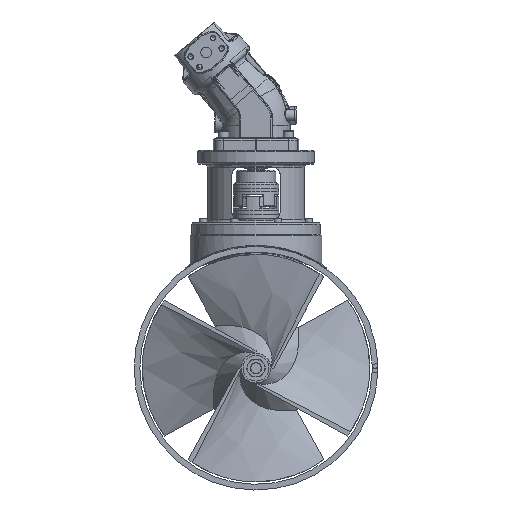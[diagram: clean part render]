
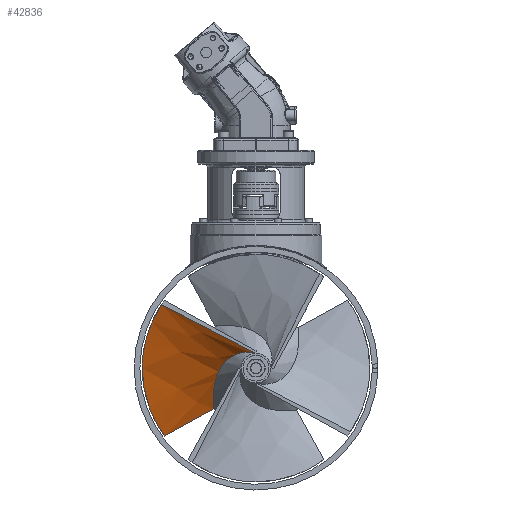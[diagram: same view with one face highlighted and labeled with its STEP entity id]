
A CAD part, left-side view. The second image highlights one B-rep face of the part: STEP entity #42836.
In plain terms, the highlighted free-form (B-spline) face has degree [3, 3] with [4, 4] control points.
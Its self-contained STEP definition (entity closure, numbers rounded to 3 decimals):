
#424=B_SPLINE_SURFACE_WITH_KNOTS('',3,3,((#104811,#104812,#104813,#104814),
(#104815,#104816,#104817,#104818),(#104819,#104820,#104821,#104822),(#104823,
#104824,#104825,#104826)),.UNSPECIFIED.,.F.,.F.,.F.,(4,4),(4,4),(0.,1.),
(0.,1.),.UNSPECIFIED.);
#7261=FACE_OUTER_BOUND('',#9927,.T.);
#9927=EDGE_LOOP('',(#35920,#35921,#35922,#35923,#35924,#35925));
#11935=LINE('',#104807,#13872);
#11938=LINE('',#104828,#13875);
#11939=LINE('',#104844,#13876);
#13872=VECTOR('',#58610,223.983);
#13875=VECTOR('',#58613,227.318);
#13876=VECTOR('',#58614,10.);
#14977=B_SPLINE_CURVE_WITH_KNOTS('',3,(#104789,#104790,#104791,#104792,
#104793,#104794,#104795,#104796),.UNSPECIFIED.,.F.,.F.,(4,2,2,4),(-13.762,
-12.685,-4.358,0.),.UNSPECIFIED.);
#14978=B_SPLINE_CURVE_WITH_KNOTS('',3,(#104798,#104799,#104800,#104801,
#104802,#104803),.UNSPECIFIED.,.F.,.F.,(4,2,4),(-26.505,-19.534,
-13.762),.UNSPECIFIED.);
#14979=B_SPLINE_CURVE_WITH_KNOTS('',3,(#104830,#104831,#104832,#104833,
#104834,#104835,#104836,#104837,#104838,#104839,#104840,#104841,#104842,
#104843),.UNSPECIFIED.,.F.,.F.,(4,2,2,2,2,2,4),(-10.784,-8.994,
-7.14,-5.039,-3.047,-1.297,
0.),.UNSPECIFIED.);
#18581=VERTEX_POINT('',#104786);
#18582=VERTEX_POINT('',#104788);
#18583=VERTEX_POINT('',#104797);
#18584=VERTEX_POINT('',#104806);
#18586=VERTEX_POINT('',#104827);
#18587=VERTEX_POINT('',#104829);
#24480=EDGE_CURVE('',#18582,#18581,#14977,.T.);
#24481=EDGE_CURVE('',#18583,#18582,#14978,.T.);
#24483=EDGE_CURVE('',#18584,#18583,#11935,.T.);
#24486=EDGE_CURVE('',#18586,#18581,#11938,.T.);
#24487=EDGE_CURVE('',#18586,#18587,#14979,.T.);
#24488=EDGE_CURVE('',#18584,#18587,#11939,.T.);
#35920=ORIENTED_EDGE('',*,*,#24481,.T.);
#35921=ORIENTED_EDGE('',*,*,#24480,.T.);
#35922=ORIENTED_EDGE('',*,*,#24486,.F.);
#35923=ORIENTED_EDGE('',*,*,#24487,.T.);
#35924=ORIENTED_EDGE('',*,*,#24488,.F.);
#35925=ORIENTED_EDGE('',*,*,#24483,.T.);
#42836=ADVANCED_FACE('',(#7261),#424,.F.);
#58610=DIRECTION('',(0.,0.888,0.459));
#58613=DIRECTION('',(0.,0.875,-0.483));
#58614=DIRECTION('',(0.866,0.,-0.5));
#104786=CARTESIAN_POINT('',(-120.988,159.676,-118.762));
#104788=CARTESIAN_POINT('',(-172.116,199.,0.));
#104789=CARTESIAN_POINT('Ctrl Pts',(-172.116,199.,0.));
#104790=CARTESIAN_POINT('Ctrl Pts',(-170.889,199.,-3.37));
#104791=CARTESIAN_POINT('Ctrl Pts',(-169.661,198.914,-6.744));
#104792=CARTESIAN_POINT('Ctrl Pts',(-158.907,197.414,
-36.208));
#104793=CARTESIAN_POINT('Ctrl Pts',(-149.462,190.965,
-61.57));
#104794=CARTESIAN_POINT('Ctrl Pts',(-133.208,174.325,
-96.911));
#104795=CARTESIAN_POINT('Ctrl Pts',(-127.36,167.466,
-108.289));
#104796=CARTESIAN_POINT('Ctrl Pts',(-120.988,159.676,-118.762));
#104797=CARTESIAN_POINT('',(-218.988,165.016,111.224));
#104798=CARTESIAN_POINT('Ctrl Pts',(-218.988,165.016,111.224));
#104799=CARTESIAN_POINT('Ctrl Pts',(-209.098,176.768,
93.788));
#104800=CARTESIAN_POINT('Ctrl Pts',(-200.454,185.897,
74.267));
#104801=CARTESIAN_POINT('Ctrl Pts',(-185.22,196.542,
36.));
#104802=CARTESIAN_POINT('Ctrl Pts',(-178.688,199.,18.057));
#104803=CARTESIAN_POINT('Ctrl Pts',(-172.116,199.,0.));
#104806=CARTESIAN_POINT('',(-218.988,0.,25.981));
#104807=CARTESIAN_POINT('',(-218.988,0.,25.981));
#104811=CARTESIAN_POINT('Ctrl Pts',(-218.988,0.,25.981));
#104812=CARTESIAN_POINT('Ctrl Pts',(-218.988,66.333,60.247));
#104813=CARTESIAN_POINT('Ctrl Pts',(-218.988,132.667,94.513));
#104814=CARTESIAN_POINT('Ctrl Pts',(-218.988,199.,128.779));
#104815=CARTESIAN_POINT('Ctrl Pts',(-186.321,0.,
7.121));
#104816=CARTESIAN_POINT('Ctrl Pts',(-186.321,66.333,
17.756));
#104817=CARTESIAN_POINT('Ctrl Pts',(-186.321,132.667,
28.392));
#104818=CARTESIAN_POINT('Ctrl Pts',(-186.321,199.,39.028));
#104819=CARTESIAN_POINT('Ctrl Pts',(-153.654,0.,
-11.739));
#104820=CARTESIAN_POINT('Ctrl Pts',(-153.654,66.333,
-24.734));
#104821=CARTESIAN_POINT('Ctrl Pts',(-153.654,132.667,
-37.729));
#104822=CARTESIAN_POINT('Ctrl Pts',(-153.654,199.,-50.723));
#104823=CARTESIAN_POINT('Ctrl Pts',(-120.987,0.,
-30.6));
#104824=CARTESIAN_POINT('Ctrl Pts',(-120.988,66.333,-67.224));
#104825=CARTESIAN_POINT('Ctrl Pts',(-120.988,132.667,-103.849));
#104826=CARTESIAN_POINT('Ctrl Pts',(-120.988,199.,-140.474));
#104827=CARTESIAN_POINT('',(-120.988,73.665,-71.272));
#104828=CARTESIAN_POINT('',(-120.987,0.,-30.6));
#104829=CARTESIAN_POINT('',(-218.953,0.,25.961));
#104830=CARTESIAN_POINT('Ctrl Pts',(-120.988,73.665,-71.272));
#104831=CARTESIAN_POINT('Ctrl Pts',(-128.166,74.829,
-62.004));
#104832=CARTESIAN_POINT('Ctrl Pts',(-135.017,75.382,-52.545));
#104833=CARTESIAN_POINT('Ctrl Pts',(-148.718,74.221,
-33.079));
#104834=CARTESIAN_POINT('Ctrl Pts',(-155.425,72.427,
-23.249));
#104835=CARTESIAN_POINT('Ctrl Pts',(-169.84,64.958,
-3.323));
#104836=CARTESIAN_POINT('Ctrl Pts',(-176.715,59.26,
5.351));
#104837=CARTESIAN_POINT('Ctrl Pts',(-189.452,46.083,
18.325));
#104838=CARTESIAN_POINT('Ctrl Pts',(-195.249,38.827,22.725));
#104839=CARTESIAN_POINT('Ctrl Pts',(-205.408,24.692,
27.582));
#104840=CARTESIAN_POINT('Ctrl Pts',(-209.592,18.239,
28.322));
#104841=CARTESIAN_POINT('Ctrl Pts',(-215.4,8.036,27.864));
#104842=CARTESIAN_POINT('Ctrl Pts',(-217.474,3.894,27.117));
#104843=CARTESIAN_POINT('Ctrl Pts',(-218.953,0.,
25.961));
#104844=CARTESIAN_POINT('',(-218.988,0.,25.981));
